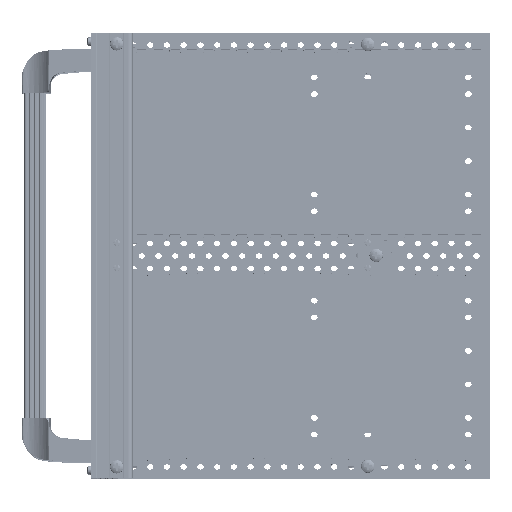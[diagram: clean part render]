
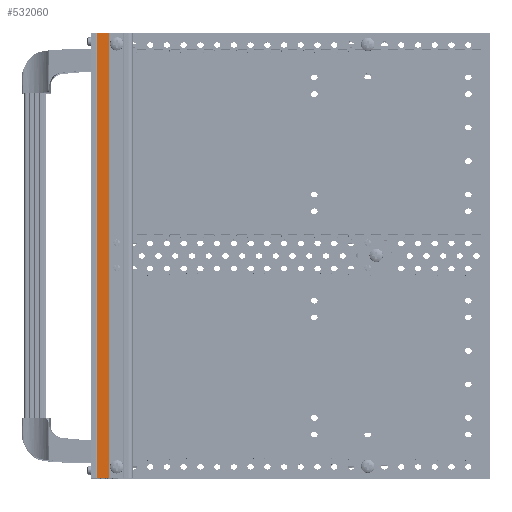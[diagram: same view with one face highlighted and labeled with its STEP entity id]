
A CAD part, top view. The second image highlights one B-rep face of the part: STEP entity #532060.
In plain terms, the highlighted planar face has unit normal (0, 0, 1) as drawn and (0, 0, -1) by its records, which use the part's own axes.
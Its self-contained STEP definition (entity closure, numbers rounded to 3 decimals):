
#528070=CARTESIAN_POINT('',(-1423.213,1461.571,-5.));
#528080=VERTEX_POINT('',#528070);
#529480=CARTESIAN_POINT('',(-1415.613,1461.571,-5.));
#529490=VERTEX_POINT('',#529480);
#529520=CARTESIAN_POINT('',(0.,1461.571,-5.));
#529530=DIRECTION('',(-1.,0.,0.));
#529540=VECTOR('',#529530,1.);
#529550=LINE('',#529520,#529540);
#529560=EDGE_CURVE('',#529490,#528080,#529550,.T.);
#531760=CARTESIAN_POINT('',(-1423.213,1594.071,-5.));
#531770=DIRECTION('',(0.,0.,1.));
#531780=DIRECTION('',(-1.,0.,0.));
#531790=AXIS2_PLACEMENT_3D('',#531760,#531770,#531780);
#531800=PLANE('',#531790);
#531810=CARTESIAN_POINT('',(-1415.613,1594.071,-5.));
#531820=DIRECTION('',(0.,-1.,-0.));
#531830=VECTOR('',#531820,1.);
#531840=LINE('',#531810,#531830);
#531850=CARTESIAN_POINT('',(-1415.613,1727.571,-5.));
#531860=VERTEX_POINT('',#531850);
#531870=EDGE_CURVE('',#531860,#529490,#531840,.T.);
#531880=ORIENTED_EDGE('',*,*,#531870,.T.);
#531890=CARTESIAN_POINT('',(-1423.213,1727.571,-5.));
#531900=DIRECTION('',(1.,0.,0.));
#531910=VECTOR('',#531900,1.);
#531920=LINE('',#531890,#531910);
#531930=CARTESIAN_POINT('',(-1423.213,1727.571,-5.));
#531940=VERTEX_POINT('',#531930);
#531950=EDGE_CURVE('',#531940,#531860,#531920,.T.);
#531960=ORIENTED_EDGE('',*,*,#531950,.T.);
#531970=CARTESIAN_POINT('',(-1423.213,1594.071,-5.));
#531980=DIRECTION('',(0.,1.,0.));
#531990=VECTOR('',#531980,1.);
#532000=LINE('',#531970,#531990);
#532010=EDGE_CURVE('',#528080,#531940,#532000,.T.);
#532020=ORIENTED_EDGE('',*,*,#532010,.T.);
#532030=ORIENTED_EDGE('',*,*,#529560,.T.);
#532040=EDGE_LOOP('',(#532030,#532020,#531960,#531880));
#532050=FACE_OUTER_BOUND('',#532040,.T.);
#532060=ADVANCED_FACE('',(#532050),#531800,.F.);
